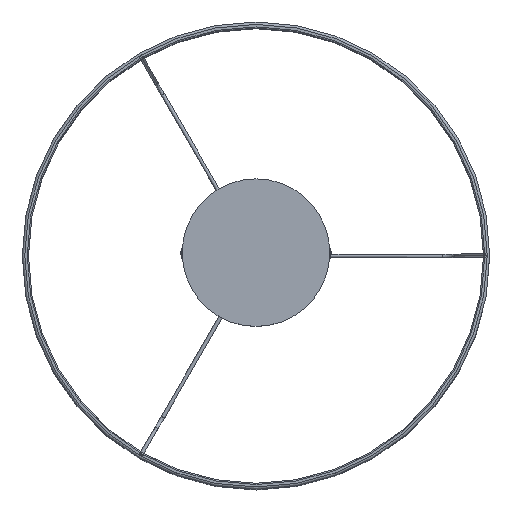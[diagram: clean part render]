
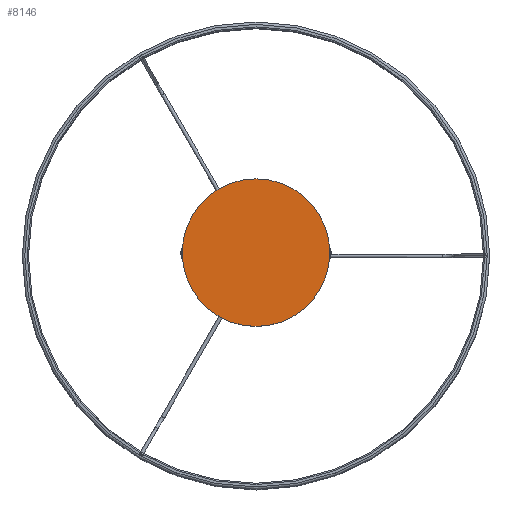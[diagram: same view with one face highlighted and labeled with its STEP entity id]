
A CAD part, top view. The second image highlights one B-rep face of the part: STEP entity #8146.
In plain terms, the highlighted planar face has unit normal (0, 0, 1).
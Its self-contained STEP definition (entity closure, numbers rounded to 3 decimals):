
#2326=FACE_OUTER_BOUND('',#2860,.T.);
#2860=EDGE_LOOP('',(#7389));
#3021=CIRCLE('',#8686,60.);
#3783=VERTEX_POINT('',#28789);
#4989=EDGE_CURVE('',#3783,#3783,#3021,.T.);
#7389=ORIENTED_EDGE('',*,*,#4989,.F.);
#7644=PLANE('',#8688);
#8146=ADVANCED_FACE('',(#2326),#7644,.F.);
#8686=AXIS2_PLACEMENT_3D('',#28791,#9966,#9967);
#8688=AXIS2_PLACEMENT_3D('',#28793,#9970,#9971);
#9966=DIRECTION('center_axis',(0.,0.,-1.));
#9967=DIRECTION('ref_axis',(1.,0.,0.));
#9970=DIRECTION('center_axis',(0.,0.,-1.));
#9971=DIRECTION('ref_axis',(1.,0.,0.));
#28789=CARTESIAN_POINT('',(-60.,0.,1770.));
#28791=CARTESIAN_POINT('Origin',(0.,0.,1770.));
#28793=CARTESIAN_POINT('Origin',(0.,0.,1770.));
